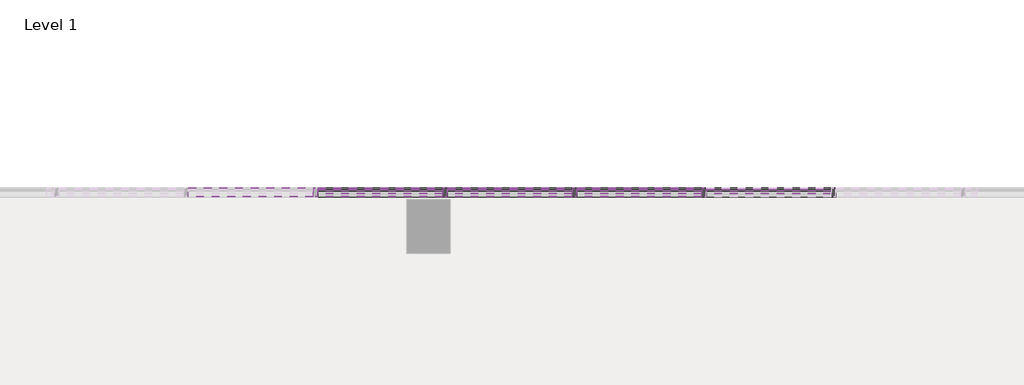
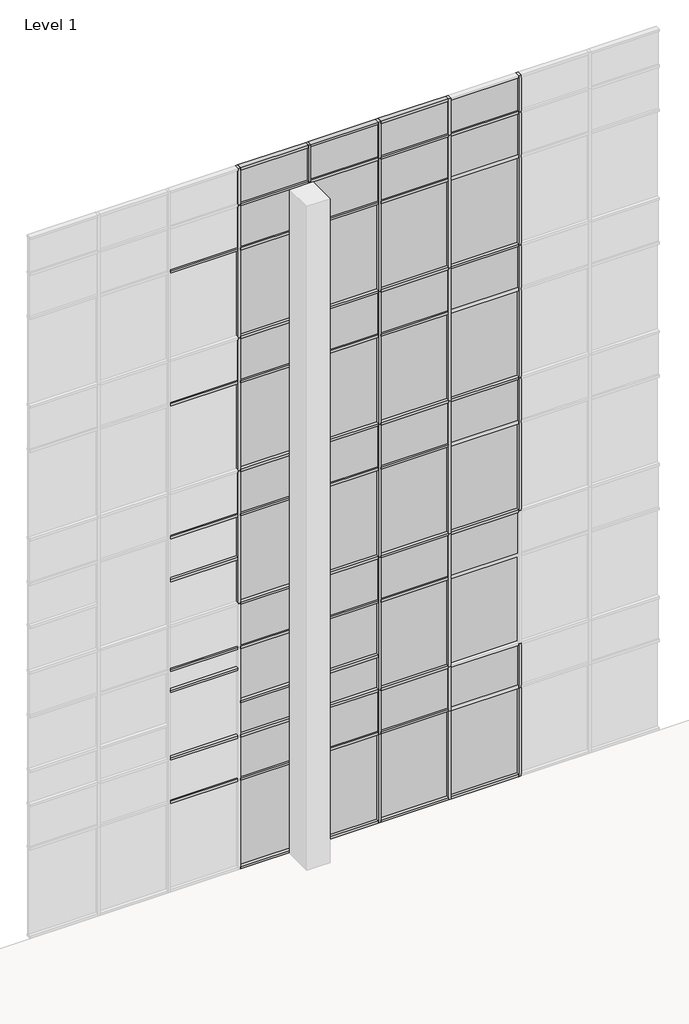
# One storey, part 12 of 23: 82 members, 46 plates.
"""IFC4 building model written with IfcOpenShell, lengths in millimetres."""

from ifc_helpers import new_model, si_unit, origin, place, context, project, spatial, transform, mapped, element, save
from components import member_2b49869a, member_f92b8aa2, member_810865a4, member_f0fea5a5, member_6d5c3e5e, member_9764dd38, system_panel_glazed_14c75400, system_panel_glazed_7d142148, system_panel_glazed_725bf07f, system_panel_solid_5dfe6f83, system_panel_solid_e25e2004, system_panel_solid_b7551183

model = new_model("IFC4")

# Units and contexts
model_context = context("Model", 3, world=origin())
ifc_project = project(units=[si_unit("LENGTHUNIT", "METRE", prefix="MILLI")], contexts=[model_context])

# Site, building, storey
site = spatial("IfcSite", under=ifc_project)
building = spatial("IfcBuilding", under=site)
storey = spatial("IfcBuildingStorey", under=building, Name="Level 1", Elevation=0.0)

# Members
placement = place(None, origin())
member_shape = member_2b49869a(model_context)
element("IfcMember", 1, ObjectType="Rectangular Mullion : 2.5\" x 5\" rectangular", at=placement, inside=storey, context=model_context, shape_type="MappedRepresentation", body=[
    mapped(member_shape, transform((-50775.4623649, 10017.7896508, 2438.4), x_axis=(1.0, 0.0, 0.0), y_axis=(0.0, -1.0, 0.0), z_axis=(0.0, 0.0, -1.0))),
])
element("IfcMember", 2, ObjectType="Rectangular Mullion : 2.5\" x 5\" rectangular", at=placement, inside=storey, context=model_context, shape_type="MappedRepresentation", body=[
    mapped(member_shape, transform((-52604.2623649, 10017.7896508, 2438.4), x_axis=(1.0, 0.0, 0.0), y_axis=(0.0, -1.0, 0.0), z_axis=(0.0, 0.0, -1.0))),
])
element("IfcMember", 3, ObjectType="Rectangular Mullion : 2.5\" x 5\" rectangular", at=placement, inside=storey, context=model_context, shape_type="MappedRepresentation", body=[
    mapped(member_shape, transform((-54433.0623649, 10017.7896508, 2438.4), x_axis=(1.0, 0.0, 0.0), y_axis=(0.0, -1.0, 0.0), z_axis=(0.0, 0.0, -1.0))),
])
element("IfcMember", 4, ObjectType="Rectangular Mullion : 2.5\" x 5\" rectangular", at=placement, inside=storey, context=model_context, shape_type="MappedRepresentation", body=[
    mapped(member_shape, transform((-56261.8623649, 10017.7896508, 2438.4), x_axis=(1.0, 0.0, 0.0), y_axis=(0.0, -1.0, 0.0), z_axis=(0.0, 0.0, -1.0))),
])
member_2_shape = member_f92b8aa2(model_context)
element("IfcMember", 5, ObjectType="Rectangular Mullion : 2.5\" x 5\" rectangular", at=placement, inside=storey, context=model_context, shape_type="MappedRepresentation", body=[
    mapped(member_2_shape, transform((-50775.4623649, 10017.7896508, 18288.0), x_axis=(1.0, 0.0, 0.0), y_axis=(0.0, -1.0, 0.0), z_axis=(0.0, 0.0, -1.0))),
])
element("IfcMember", 6, ObjectType="Rectangular Mullion : 2.5\" x 5\" rectangular", at=placement, inside=storey, context=model_context, shape_type="MappedRepresentation", body=[
    mapped(member_2_shape, transform((-52604.2623649, 10017.7896508, 18288.0), x_axis=(1.0, 0.0, 0.0), y_axis=(0.0, -1.0, 0.0), z_axis=(0.0, 0.0, -1.0))),
])
element("IfcMember", 7, ObjectType="Rectangular Mullion : 2.5\" x 5\" rectangular", at=placement, inside=storey, context=model_context, shape_type="MappedRepresentation", body=[
    mapped(member_2_shape, transform((-54433.0623649, 10017.7896508, 18288.0), x_axis=(1.0, 0.0, 0.0), y_axis=(0.0, -1.0, 0.0), z_axis=(0.0, 0.0, -1.0))),
])
element("IfcMember", 8, ObjectType="Rectangular Mullion : 2.5\" x 5\" rectangular", at=placement, inside=storey, context=model_context, shape_type="MappedRepresentation", body=[
    mapped(member_2_shape, transform((-56261.8623649, 10017.7896508, 18288.0), x_axis=(1.0, 0.0, 0.0), y_axis=(0.0, -1.0, 0.0), z_axis=(0.0, 0.0, -1.0))),
])
element("IfcMember", 9, ObjectType="Rectangular Mullion : 2.5\" x 5\" rectangular", at=placement, inside=storey, context=model_context, shape_type="MappedRepresentation", body=[
    mapped(member_2_shape, transform((-58090.6623649, 10017.7896508, 18288.0), x_axis=(1.0, 0.0, 0.0), y_axis=(0.0, -1.0, 0.0), z_axis=(0.0, 0.0, -1.0))),
])
member_3_shape = member_810865a4(model_context)
element("IfcMember", 10, ObjectType="Rectangular Mullion : 2.5\" x 5\" rectangular", at=placement, inside=storey, context=model_context, shape_type="MappedRepresentation", body=[
    mapped(member_3_shape, transform((-50775.4623649, 10017.7896508, 14630.4), x_axis=(1.0, 0.0, 0.0), y_axis=(0.0, -1.0, 0.0), z_axis=(0.0, 0.0, -1.0))),
])
element("IfcMember", 11, ObjectType="Rectangular Mullion : 2.5\" x 5\" rectangular", at=placement, inside=storey, context=model_context, shape_type="MappedRepresentation", body=[
    mapped(member_3_shape, transform((-50775.4623649, 10017.7896508, 10972.8), x_axis=(1.0, 0.0, 0.0), y_axis=(0.0, -1.0, 0.0), z_axis=(0.0, 0.0, -1.0))),
])
element("IfcMember", 12, ObjectType="Rectangular Mullion : 2.5\" x 5\" rectangular", at=placement, inside=storey, context=model_context, shape_type="MappedRepresentation", body=[
    mapped(member_3_shape, transform((-50775.4623649, 10017.7896508, 7315.2), x_axis=(1.0, 0.0, 0.0), y_axis=(0.0, -1.0, 0.0), z_axis=(0.0, 0.0, -1.0))),
])
element("IfcMember", 13, ObjectType="Rectangular Mullion : 2.5\" x 5\" rectangular", at=placement, inside=storey, context=model_context, shape_type="MappedRepresentation", body=[
    mapped(member_3_shape, transform((-52604.2623649, 10017.7896508, 14630.4), x_axis=(1.0, 0.0, 0.0), y_axis=(0.0, -1.0, 0.0), z_axis=(0.0, 0.0, -1.0))),
])
element("IfcMember", 14, ObjectType="Rectangular Mullion : 2.5\" x 5\" rectangular", at=placement, inside=storey, context=model_context, shape_type="MappedRepresentation", body=[
    mapped(member_3_shape, transform((-52604.2623649, 10017.7896508, 10972.8), x_axis=(1.0, 0.0, 0.0), y_axis=(0.0, -1.0, 0.0), z_axis=(0.0, 0.0, -1.0))),
])
element("IfcMember", 15, ObjectType="Rectangular Mullion : 2.5\" x 5\" rectangular", at=placement, inside=storey, context=model_context, shape_type="MappedRepresentation", body=[
    mapped(member_3_shape, transform((-52604.2623649, 10017.7896508, 7315.2), x_axis=(1.0, 0.0, 0.0), y_axis=(0.0, -1.0, 0.0), z_axis=(0.0, 0.0, -1.0))),
])
element("IfcMember", 16, ObjectType="Rectangular Mullion : 2.5\" x 5\" rectangular", at=placement, inside=storey, context=model_context, shape_type="MappedRepresentation", body=[
    mapped(member_3_shape, transform((-52604.2623649, 10017.7896508, 3657.6), x_axis=(1.0, 0.0, 0.0), y_axis=(0.0, -1.0, 0.0), z_axis=(0.0, 0.0, -1.0))),
])
element("IfcMember", 17, ObjectType="Rectangular Mullion : 2.5\" x 5\" rectangular", at=placement, inside=storey, context=model_context, shape_type="MappedRepresentation", body=[
    mapped(member_3_shape, transform((-54433.0623649, 10017.7896508, 14630.4), x_axis=(1.0, 0.0, 0.0), y_axis=(0.0, -1.0, 0.0), z_axis=(0.0, 0.0, -1.0))),
])
element("IfcMember", 18, ObjectType="Rectangular Mullion : 2.5\" x 5\" rectangular", at=placement, inside=storey, context=model_context, shape_type="MappedRepresentation", body=[
    mapped(member_3_shape, transform((-54433.0623649, 10017.7896508, 10972.8), x_axis=(1.0, 0.0, 0.0), y_axis=(0.0, -1.0, 0.0), z_axis=(0.0, 0.0, -1.0))),
])
element("IfcMember", 19, ObjectType="Rectangular Mullion : 2.5\" x 5\" rectangular", at=placement, inside=storey, context=model_context, shape_type="MappedRepresentation", body=[
    mapped(member_3_shape, transform((-54433.0623649, 10017.7896508, 7315.2), x_axis=(1.0, 0.0, 0.0), y_axis=(0.0, -1.0, 0.0), z_axis=(0.0, 0.0, -1.0))),
])
element("IfcMember", 20, ObjectType="Rectangular Mullion : 2.5\" x 5\" rectangular", at=placement, inside=storey, context=model_context, shape_type="MappedRepresentation", body=[
    mapped(member_3_shape, transform((-54433.0623649, 10017.7896508, 3657.6), x_axis=(1.0, 0.0, 0.0), y_axis=(0.0, -1.0, 0.0), z_axis=(0.0, 0.0, -1.0))),
])
element("IfcMember", 21, ObjectType="Rectangular Mullion : 2.5\" x 5\" rectangular", at=placement, inside=storey, context=model_context, shape_type="MappedRepresentation", body=[
    mapped(member_3_shape, transform((-56261.8623649, 10017.7896508, 14630.4), x_axis=(1.0, 0.0, 0.0), y_axis=(0.0, -1.0, 0.0), z_axis=(0.0, 0.0, -1.0))),
])
element("IfcMember", 22, ObjectType="Rectangular Mullion : 2.5\" x 5\" rectangular", at=placement, inside=storey, context=model_context, shape_type="MappedRepresentation", body=[
    mapped(member_3_shape, transform((-56261.8623649, 10017.7896508, 10972.8), x_axis=(1.0, 0.0, 0.0), y_axis=(0.0, -1.0, 0.0), z_axis=(0.0, 0.0, -1.0))),
])
element("IfcMember", 23, ObjectType="Rectangular Mullion : 2.5\" x 5\" rectangular", at=placement, inside=storey, context=model_context, shape_type="MappedRepresentation", body=[
    mapped(member_3_shape, transform((-56261.8623649, 10017.7896508, 7315.2), x_axis=(1.0, 0.0, 0.0), y_axis=(0.0, -1.0, 0.0), z_axis=(0.0, 0.0, -1.0))),
])
element("IfcMember", 24, ObjectType="Rectangular Mullion : 2.5\" x 5\" rectangular", at=placement, inside=storey, context=model_context, shape_type="MappedRepresentation", body=[
    mapped(member_3_shape, transform((-56261.8623649, 10017.7896508, 3657.6), x_axis=(1.0, 0.0, 0.0), y_axis=(0.0, -1.0, 0.0), z_axis=(0.0, 0.0, -1.0))),
])
element("IfcMember", 25, ObjectType="Rectangular Mullion : 2.5\" x 5\" rectangular", at=placement, inside=storey, context=model_context, shape_type="MappedRepresentation", body=[
    mapped(member_3_shape, transform((-58090.6623649, 10017.7896508, 14630.4), x_axis=(1.0, 0.0, 0.0), y_axis=(0.0, -1.0, 0.0), z_axis=(0.0, 0.0, -1.0))),
])
element("IfcMember", 26, ObjectType="Rectangular Mullion : 2.5\" x 5\" rectangular", at=placement, inside=storey, context=model_context, shape_type="MappedRepresentation", body=[
    mapped(member_3_shape, transform((-58090.6623649, 10017.7896508, 10972.8), x_axis=(1.0, 0.0, 0.0), y_axis=(0.0, -1.0, 0.0), z_axis=(0.0, 0.0, -1.0))),
])
element("IfcMember", 27, ObjectType="Rectangular Mullion : 2.5\" x 5\" rectangular", at=placement, inside=storey, context=model_context, shape_type="MappedRepresentation", body=[
    mapped(member_3_shape, transform((-58090.6623649, 10017.7896508, 7315.2), x_axis=(1.0, 0.0, 0.0), y_axis=(0.0, -1.0, 0.0), z_axis=(0.0, 0.0, -1.0))),
])
member_4_shape = member_f0fea5a5(model_context)
element("IfcMember", 28, ObjectType="Rectangular Mullion : 2.5\" x 5\" rectangular", at=placement, inside=storey, context=model_context, shape_type="MappedRepresentation", body=[
    mapped(member_4_shape, transform((-50775.4623649, 10017.7896508, 0.0), x_axis=(1.0, 0.0, 0.0), y_axis=(0.0, -1.0, 0.0), z_axis=(0.0, 0.0, -1.0))),
])
element("IfcMember", 29, ObjectType="Rectangular Mullion : 2.5\" x 5\" rectangular", at=placement, inside=storey, context=model_context, shape_type="MappedRepresentation", body=[
    mapped(member_4_shape, transform((-56261.8623649, 10017.7896508, 0.0), x_axis=(1.0, 0.0, 0.0), y_axis=(0.0, -1.0, 0.0), z_axis=(0.0, 0.0, -1.0))),
])
element("IfcMember", 30, ObjectType="Rectangular Mullion : 2.5\" x 5\" rectangular", at=placement, inside=storey, context=model_context, shape_type="MappedRepresentation", body=[
    mapped(member_4_shape, transform((-52604.2623649, 10017.7896508, 0.0), x_axis=(1.0, 0.0, 0.0), y_axis=(0.0, -1.0, 0.0), z_axis=(0.0, 0.0, -1.0))),
])
element("IfcMember", 31, ObjectType="Rectangular Mullion : 2.5\" x 5\" rectangular", at=placement, inside=storey, context=model_context, shape_type="MappedRepresentation", body=[
    mapped(member_4_shape, transform((-54433.0623649, 10017.7896508, 0.0), x_axis=(1.0, 0.0, 0.0), y_axis=(0.0, -1.0, 0.0), z_axis=(0.0, 0.0, -1.0))),
])
member_5_shape = member_6d5c3e5e(model_context)
element("IfcMember", 32, ObjectType="Rectangular Mullion : 2.5\" x 5\" rectangular", at=placement, inside=storey, context=model_context, shape_type="MappedRepresentation", body=[
    mapped(member_5_shape, transform((-56293.6123649, 10017.7896508, 19304.0), x_axis=(0.0, 0.0, 1.0), y_axis=(0.0, -1.0, 0.0), z_axis=(1.0, 0.0, 0.0))),
])
element("IfcMember", 33, ObjectType="Rectangular Mullion : 2.5\" x 5\" rectangular", at=placement, inside=storey, context=model_context, shape_type="MappedRepresentation", body=[
    mapped(member_5_shape, transform((-52636.0123649, 10017.7896508, 19304.0), x_axis=(0.0, 0.0, 1.0), y_axis=(0.0, -1.0, 0.0), z_axis=(1.0, 0.0, 0.0))),
])
element("IfcMember", 34, ObjectType="Rectangular Mullion : 2.5\" x 5\" rectangular", at=placement, inside=storey, context=model_context, shape_type="MappedRepresentation", body=[
    mapped(member_5_shape, transform((-54464.8123649, 10017.7896508, 19304.0), x_axis=(0.0, 0.0, 1.0), y_axis=(0.0, -1.0, 0.0), z_axis=(1.0, 0.0, 0.0))),
])
member_6_shape = member_9764dd38(model_context)
element("IfcMember", 35, ObjectType="Rectangular Mullion : 2.5\" x 5\" rectangular", at=placement, inside=storey, context=model_context, shape_type="MappedRepresentation", body=[
    mapped(member_6_shape, transform((-52636.0123649, 10017.7896508, 17068.8), x_axis=(0.0, 0.0, 1.0), y_axis=(0.0, -1.0, 0.0), z_axis=(1.0, 0.0, 0.0))),
])
element("IfcMember", 36, ObjectType="Rectangular Mullion : 2.5\" x 5\" rectangular", at=placement, inside=storey, context=model_context, shape_type="MappedRepresentation", body=[
    mapped(member_6_shape, transform((-54464.8123649, 10017.7896508, 17068.8), x_axis=(0.0, 0.0, 1.0), y_axis=(0.0, -1.0, 0.0), z_axis=(1.0, 0.0, 0.0))),
])
element("IfcMember", 37, ObjectType="Rectangular Mullion : 2.5\" x 5\" rectangular", at=placement, inside=storey, context=model_context, shape_type="MappedRepresentation", body=[
    mapped(member_6_shape, transform((-56293.6123649, 10017.7896508, 17068.8), x_axis=(0.0, 0.0, 1.0), y_axis=(0.0, -1.0, 0.0), z_axis=(1.0, 0.0, 0.0))),
])
element("IfcMember", 38, ObjectType="Rectangular Mullion : 2.5\" x 5\" rectangular", at=placement, inside=storey, context=model_context, shape_type="MappedRepresentation", body=[
    mapped(member_6_shape, transform((-58122.4123649, 10017.7896508, 17068.8), x_axis=(0.0, 0.0, 1.0), y_axis=(0.0, -1.0, 0.0), z_axis=(1.0, 0.0, 0.0))),
])
element("IfcMember", 39, ObjectType="Rectangular Mullion : 2.5\" x 5\" rectangular", at=placement, inside=storey, context=model_context, shape_type="MappedRepresentation", body=[
    mapped(member_6_shape, transform((-52636.0123649, 10017.7896508, 13411.2), x_axis=(0.0, 0.0, 1.0), y_axis=(0.0, -1.0, 0.0), z_axis=(1.0, 0.0, 0.0))),
])
element("IfcMember", 40, ObjectType="Rectangular Mullion : 2.5\" x 5\" rectangular", at=placement, inside=storey, context=model_context, shape_type="MappedRepresentation", body=[
    mapped(member_6_shape, transform((-54464.8123649, 10017.7896508, 13411.2), x_axis=(0.0, 0.0, 1.0), y_axis=(0.0, -1.0, 0.0), z_axis=(1.0, 0.0, 0.0))),
])
element("IfcMember", 41, ObjectType="Rectangular Mullion : 2.5\" x 5\" rectangular", at=placement, inside=storey, context=model_context, shape_type="MappedRepresentation", body=[
    mapped(member_6_shape, transform((-56293.6123649, 10017.7896508, 13411.2), x_axis=(0.0, 0.0, 1.0), y_axis=(0.0, -1.0, 0.0), z_axis=(1.0, 0.0, 0.0))),
])
element("IfcMember", 42, ObjectType="Rectangular Mullion : 2.5\" x 5\" rectangular", at=placement, inside=storey, context=model_context, shape_type="MappedRepresentation", body=[
    mapped(member_6_shape, transform((-58122.4123649, 10017.7896508, 13411.2), x_axis=(0.0, 0.0, 1.0), y_axis=(0.0, -1.0, 0.0), z_axis=(1.0, 0.0, 0.0))),
])
element("IfcMember", 43, ObjectType="Rectangular Mullion : 2.5\" x 5\" rectangular", at=placement, inside=storey, context=model_context, shape_type="MappedRepresentation", body=[
    mapped(member_6_shape, transform((-52636.0123649, 10017.7896508, 9753.6), x_axis=(0.0, 0.0, 1.0), y_axis=(0.0, -1.0, 0.0), z_axis=(1.0, 0.0, 0.0))),
])
element("IfcMember", 44, ObjectType="Rectangular Mullion : 2.5\" x 5\" rectangular", at=placement, inside=storey, context=model_context, shape_type="MappedRepresentation", body=[
    mapped(member_6_shape, transform((-54464.8123649, 10017.7896508, 9753.6), x_axis=(0.0, 0.0, 1.0), y_axis=(0.0, -1.0, 0.0), z_axis=(1.0, 0.0, 0.0))),
])
element("IfcMember", 45, ObjectType="Rectangular Mullion : 2.5\" x 5\" rectangular", at=placement, inside=storey, context=model_context, shape_type="MappedRepresentation", body=[
    mapped(member_6_shape, transform((-56293.6123649, 10017.7896508, 9753.6), x_axis=(0.0, 0.0, 1.0), y_axis=(0.0, -1.0, 0.0), z_axis=(1.0, 0.0, 0.0))),
])
element("IfcMember", 46, ObjectType="Rectangular Mullion : 2.5\" x 5\" rectangular", at=placement, inside=storey, context=model_context, shape_type="MappedRepresentation", body=[
    mapped(member_6_shape, transform((-58122.4123649, 10017.7896508, 9753.6), x_axis=(0.0, 0.0, 1.0), y_axis=(0.0, -1.0, 0.0), z_axis=(1.0, 0.0, 0.0))),
])
element("IfcMember", 47, ObjectType="Rectangular Mullion : 2.5\" x 5\" rectangular", at=placement, inside=storey, context=model_context, shape_type="MappedRepresentation", body=[
    mapped(member_6_shape, transform((-52636.0123649, 10017.7896508, 6096.0), x_axis=(0.0, 0.0, 1.0), y_axis=(0.0, -1.0, 0.0), z_axis=(1.0, 0.0, 0.0))),
])
element("IfcMember", 48, ObjectType="Rectangular Mullion : 2.5\" x 5\" rectangular", at=placement, inside=storey, context=model_context, shape_type="MappedRepresentation", body=[
    mapped(member_6_shape, transform((-54464.8123649, 10017.7896508, 6096.0), x_axis=(0.0, 0.0, 1.0), y_axis=(0.0, -1.0, 0.0), z_axis=(1.0, 0.0, 0.0))),
])
element("IfcMember", 49, ObjectType="Rectangular Mullion : 2.5\" x 5\" rectangular", at=placement, inside=storey, context=model_context, shape_type="MappedRepresentation", body=[
    mapped(member_6_shape, transform((-56293.6123649, 10017.7896508, 6096.0), x_axis=(0.0, 0.0, 1.0), y_axis=(0.0, -1.0, 0.0), z_axis=(1.0, 0.0, 0.0))),
])
element("IfcMember", 50, ObjectType="Rectangular Mullion : 2.5\" x 5\" rectangular", at=placement, inside=storey, context=model_context, shape_type="MappedRepresentation", body=[
    mapped(member_6_shape, transform((-58122.4123649, 10017.7896508, 6096.0), x_axis=(0.0, 0.0, 1.0), y_axis=(0.0, -1.0, 0.0), z_axis=(1.0, 0.0, 0.0))),
])
element("IfcMember", 51, ObjectType="Rectangular Mullion : 2.5\" x 5\" rectangular", at=placement, inside=storey, context=model_context, shape_type="MappedRepresentation", body=[
    mapped(member_6_shape, transform((-52636.0123649, 10017.7896508, 2470.15), x_axis=(0.0, 0.0, 1.0), y_axis=(0.0, -1.0, 0.0), z_axis=(1.0, 0.0, 0.0))),
])
element("IfcMember", 52, ObjectType="Rectangular Mullion : 2.5\" x 5\" rectangular", at=placement, inside=storey, context=model_context, shape_type="MappedRepresentation", body=[
    mapped(member_6_shape, transform((-54464.8123649, 10017.7896508, 2470.15), x_axis=(0.0, 0.0, 1.0), y_axis=(0.0, -1.0, 0.0), z_axis=(1.0, 0.0, 0.0))),
])
element("IfcMember", 53, ObjectType="Rectangular Mullion : 2.5\" x 5\" rectangular", at=placement, inside=storey, context=model_context, shape_type="MappedRepresentation", body=[
    mapped(member_6_shape, transform((-56293.6123649, 10017.7896508, 2470.15), x_axis=(0.0, 0.0, 1.0), y_axis=(0.0, -1.0, 0.0), z_axis=(1.0, 0.0, 0.0))),
])
element("IfcMember", 54, ObjectType="Rectangular Mullion : 2.5\" x 5\" rectangular", at=placement, inside=storey, context=model_context, shape_type="MappedRepresentation", body=[
    mapped(member_6_shape, transform((-58122.4123649, 10017.7896508, 2470.15), x_axis=(0.0, 0.0, 1.0), y_axis=(0.0, -1.0, 0.0), z_axis=(1.0, 0.0, 0.0))),
])
element("IfcMember", 55, ObjectType="Rectangular Mullion : 2.5\" x 5\" rectangular", at=placement, inside=storey, context=model_context, shape_type="MappedRepresentation", body=[
    mapped(member_6_shape, transform((-58122.4123649, 10017.7896508, 8566.15), x_axis=(0.0, 0.0, 1.0), y_axis=(0.0, -1.0, 0.0), z_axis=(1.0, 0.0, 0.0))),
])
element("IfcMember", 56, ObjectType="Rectangular Mullion : 2.5\" x 5\" rectangular", at=placement, inside=storey, context=model_context, shape_type="MappedRepresentation", body=[
    mapped(member_6_shape, transform((-58122.4123649, 10017.7896508, 5518.15), x_axis=(0.0, 0.0, 1.0), y_axis=(0.0, -1.0, 0.0), z_axis=(1.0, 0.0, 0.0))),
])
element("IfcMember", 57, ObjectType="Rectangular Mullion : 2.5\" x 5\" rectangular", at=placement, inside=storey, context=model_context, shape_type="MappedRepresentation", body=[
    mapped(member_6_shape, transform((-56293.6123649, 10017.7896508, 4603.75), x_axis=(0.0, 0.0, 1.0), y_axis=(0.0, -1.0, 0.0), z_axis=(1.0, 0.0, 0.0))),
])
element("IfcMember", 58, ObjectType="Rectangular Mullion : 2.5\" x 5\" rectangular", at=placement, inside=storey, context=model_context, shape_type="MappedRepresentation", body=[
    mapped(member_6_shape, transform((-54464.8123649, 10017.7896508, 4603.75), x_axis=(0.0, 0.0, 1.0), y_axis=(0.0, -1.0, 0.0), z_axis=(1.0, 0.0, 0.0))),
])
element("IfcMember", 59, ObjectType="Rectangular Mullion : 2.5\" x 5\" rectangular", at=placement, inside=storey, context=model_context, shape_type="MappedRepresentation", body=[
    mapped(member_5_shape, transform((-52572.5123649, 10017.7896508, 0.0), x_axis=(0.0, 0.0, -1.0), y_axis=(0.0, -1.0, 0.0), z_axis=(-1.0, 0.0, 0.0))),
])
element("IfcMember", 60, ObjectType="Rectangular Mullion : 2.5\" x 5\" rectangular", at=placement, inside=storey, context=model_context, shape_type="MappedRepresentation", body=[
    mapped(member_5_shape, transform((-54401.3123649, 10017.7896508, 0.0), x_axis=(0.0, 0.0, -1.0), y_axis=(0.0, -1.0, 0.0), z_axis=(-1.0, 0.0, 0.0))),
])
element("IfcMember", 61, ObjectType="Rectangular Mullion : 2.5\" x 5\" rectangular", at=placement, inside=storey, context=model_context, shape_type="MappedRepresentation", body=[
    mapped(member_5_shape, transform((-56230.1123649, 10017.7896508, 0.0), x_axis=(0.0, 0.0, -1.0), y_axis=(0.0, -1.0, 0.0), z_axis=(-1.0, 0.0, 0.0))),
])
element("IfcMember", 62, ObjectType="Rectangular Mullion : 2.5\" x 5\" rectangular", at=placement, inside=storey, context=model_context, shape_type="MappedRepresentation", body=[
    mapped(member_5_shape, transform((-58058.9123649, 10017.7896508, 0.0), x_axis=(0.0, 0.0, -1.0), y_axis=(0.0, -1.0, 0.0), z_axis=(-1.0, 0.0, 0.0))),
])
element("IfcMember", 63, ObjectType="Rectangular Mullion : 2.5\" x 5\" rectangular", at=placement, inside=storey, context=model_context, shape_type="MappedRepresentation", body=[
    mapped(member_6_shape, transform((-50807.2123649, 10017.7896508, 10972.8), x_axis=(0.0, 0.0, 1.0), y_axis=(0.0, -1.0, 0.0), z_axis=(1.0, 0.0, 0.0))),
])
element("IfcMember", 64, ObjectType="Rectangular Mullion : 2.5\" x 5\" rectangular", at=placement, inside=storey, context=model_context, shape_type="MappedRepresentation", body=[
    mapped(member_6_shape, transform((-52636.0123649, 10017.7896508, 10972.8), x_axis=(0.0, 0.0, 1.0), y_axis=(0.0, -1.0, 0.0), z_axis=(1.0, 0.0, 0.0))),
])
element("IfcMember", 65, ObjectType="Rectangular Mullion : 2.5\" x 5\" rectangular", at=placement, inside=storey, context=model_context, shape_type="MappedRepresentation", body=[
    mapped(member_6_shape, transform((-54464.8123649, 10017.7896508, 10972.8), x_axis=(0.0, 0.0, 1.0), y_axis=(0.0, -1.0, 0.0), z_axis=(1.0, 0.0, 0.0))),
])
element("IfcMember", 66, ObjectType="Rectangular Mullion : 2.5\" x 5\" rectangular", at=placement, inside=storey, context=model_context, shape_type="MappedRepresentation", body=[
    mapped(member_6_shape, transform((-56293.6123649, 10017.7896508, 10972.8), x_axis=(0.0, 0.0, 1.0), y_axis=(0.0, -1.0, 0.0), z_axis=(1.0, 0.0, 0.0))),
])
element("IfcMember", 67, ObjectType="Rectangular Mullion : 2.5\" x 5\" rectangular", at=placement, inside=storey, context=model_context, shape_type="MappedRepresentation", body=[
    mapped(member_6_shape, transform((-50807.2123649, 10017.7896508, 7315.2), x_axis=(0.0, 0.0, 1.0), y_axis=(0.0, -1.0, 0.0), z_axis=(1.0, 0.0, 0.0))),
])
element("IfcMember", 68, ObjectType="Rectangular Mullion : 2.5\" x 5\" rectangular", at=placement, inside=storey, context=model_context, shape_type="MappedRepresentation", body=[
    mapped(member_6_shape, transform((-52636.0123649, 10017.7896508, 7315.2), x_axis=(0.0, 0.0, 1.0), y_axis=(0.0, -1.0, 0.0), z_axis=(1.0, 0.0, 0.0))),
])
element("IfcMember", 69, ObjectType="Rectangular Mullion : 2.5\" x 5\" rectangular", at=placement, inside=storey, context=model_context, shape_type="MappedRepresentation", body=[
    mapped(member_6_shape, transform((-54464.8123649, 10017.7896508, 7315.2), x_axis=(0.0, 0.0, 1.0), y_axis=(0.0, -1.0, 0.0), z_axis=(1.0, 0.0, 0.0))),
])
element("IfcMember", 70, ObjectType="Rectangular Mullion : 2.5\" x 5\" rectangular", at=placement, inside=storey, context=model_context, shape_type="MappedRepresentation", body=[
    mapped(member_6_shape, transform((-56293.6123649, 10017.7896508, 7315.2), x_axis=(0.0, 0.0, 1.0), y_axis=(0.0, -1.0, 0.0), z_axis=(1.0, 0.0, 0.0))),
])
element("IfcMember", 71, ObjectType="Rectangular Mullion : 2.5\" x 5\" rectangular", at=placement, inside=storey, context=model_context, shape_type="MappedRepresentation", body=[
    mapped(member_6_shape, transform((-50807.2123649, 10017.7896508, 18288.0), x_axis=(0.0, 0.0, 1.0), y_axis=(0.0, -1.0, 0.0), z_axis=(1.0, 0.0, 0.0))),
])
element("IfcMember", 72, ObjectType="Rectangular Mullion : 2.5\" x 5\" rectangular", at=placement, inside=storey, context=model_context, shape_type="MappedRepresentation", body=[
    mapped(member_6_shape, transform((-52636.0123649, 10017.7896508, 18288.0), x_axis=(0.0, 0.0, 1.0), y_axis=(0.0, -1.0, 0.0), z_axis=(1.0, 0.0, 0.0))),
])
element("IfcMember", 73, ObjectType="Rectangular Mullion : 2.5\" x 5\" rectangular", at=placement, inside=storey, context=model_context, shape_type="MappedRepresentation", body=[
    mapped(member_6_shape, transform((-54464.8123649, 10017.7896508, 18288.0), x_axis=(0.0, 0.0, 1.0), y_axis=(0.0, -1.0, 0.0), z_axis=(1.0, 0.0, 0.0))),
])
element("IfcMember", 74, ObjectType="Rectangular Mullion : 2.5\" x 5\" rectangular", at=placement, inside=storey, context=model_context, shape_type="MappedRepresentation", body=[
    mapped(member_6_shape, transform((-56293.6123649, 10017.7896508, 18288.0), x_axis=(0.0, 0.0, 1.0), y_axis=(0.0, -1.0, 0.0), z_axis=(1.0, 0.0, 0.0))),
])
element("IfcMember", 75, ObjectType="Rectangular Mullion : 2.5\" x 5\" rectangular", at=placement, inside=storey, context=model_context, shape_type="MappedRepresentation", body=[
    mapped(member_6_shape, transform((-50807.2123649, 10017.7896508, 14630.4), x_axis=(0.0, 0.0, 1.0), y_axis=(0.0, -1.0, 0.0), z_axis=(1.0, 0.0, 0.0))),
])
element("IfcMember", 76, ObjectType="Rectangular Mullion : 2.5\" x 5\" rectangular", at=placement, inside=storey, context=model_context, shape_type="MappedRepresentation", body=[
    mapped(member_6_shape, transform((-52636.0123649, 10017.7896508, 14630.4), x_axis=(0.0, 0.0, 1.0), y_axis=(0.0, -1.0, 0.0), z_axis=(1.0, 0.0, 0.0))),
])
element("IfcMember", 77, ObjectType="Rectangular Mullion : 2.5\" x 5\" rectangular", at=placement, inside=storey, context=model_context, shape_type="MappedRepresentation", body=[
    mapped(member_6_shape, transform((-54464.8123649, 10017.7896508, 14630.4), x_axis=(0.0, 0.0, 1.0), y_axis=(0.0, -1.0, 0.0), z_axis=(1.0, 0.0, 0.0))),
])
element("IfcMember", 78, ObjectType="Rectangular Mullion : 2.5\" x 5\" rectangular", at=placement, inside=storey, context=model_context, shape_type="MappedRepresentation", body=[
    mapped(member_6_shape, transform((-56293.6123649, 10017.7896508, 14630.4), x_axis=(0.0, 0.0, 1.0), y_axis=(0.0, -1.0, 0.0), z_axis=(1.0, 0.0, 0.0))),
])
element("IfcMember", 79, ObjectType="Rectangular Mullion : 2.5\" x 5\" rectangular", at=placement, inside=storey, context=model_context, shape_type="MappedRepresentation", body=[
    mapped(member_6_shape, transform((-56293.6123649, 10017.7896508, 3657.6), x_axis=(0.0, 0.0, 1.0), y_axis=(0.0, -1.0, 0.0), z_axis=(1.0, 0.0, 0.0))),
])
element("IfcMember", 80, ObjectType="Rectangular Mullion : 2.5\" x 5\" rectangular", at=placement, inside=storey, context=model_context, shape_type="MappedRepresentation", body=[
    mapped(member_6_shape, transform((-52636.0123649, 10017.7896508, 3657.6), x_axis=(0.0, 0.0, 1.0), y_axis=(0.0, -1.0, 0.0), z_axis=(1.0, 0.0, 0.0))),
])
element("IfcMember", 81, ObjectType="Rectangular Mullion : 2.5\" x 5\" rectangular", at=placement, inside=storey, context=model_context, shape_type="MappedRepresentation", body=[
    mapped(member_6_shape, transform((-58122.4123649, 10017.7896508, 3657.6), x_axis=(0.0, 0.0, 1.0), y_axis=(0.0, -1.0, 0.0), z_axis=(1.0, 0.0, 0.0))),
])
element("IfcMember", 82, ObjectType="Rectangular Mullion : 2.5\" x 5\" rectangular", at=placement, inside=storey, context=model_context, shape_type="MappedRepresentation", body=[
    mapped(member_6_shape, transform((-54464.8123649, 10017.7896508, 3657.6), x_axis=(0.0, 0.0, 1.0), y_axis=(0.0, -1.0, 0.0), z_axis=(1.0, 0.0, 0.0))),
])

# Plates
system_panel_glazed_shape = system_panel_glazed_14c75400(model_context)
element("IfcPlate", 83, ObjectType="System Panel : Glazed", at=placement, inside=storey, context=model_context, shape_type="MappedRepresentation", body=[
    mapped(system_panel_glazed_shape, transform((-51689.8623649, 10017.7896508, 14662.15), x_axis=(1.0, 0.0, 0.0), y_axis=(0.0, 1.0, 0.0), z_axis=(0.0, 0.0, 1.0))),
])
element("IfcPlate", 84, ObjectType="System Panel : Glazed", at=placement, inside=storey, context=model_context, shape_type="MappedRepresentation", body=[
    mapped(system_panel_glazed_shape, transform((-53518.6623649, 10017.7896508, 14662.15), x_axis=(1.0, 0.0, 0.0), y_axis=(0.0, 1.0, 0.0), z_axis=(0.0, 0.0, 1.0))),
])
element("IfcPlate", 85, ObjectType="System Panel : Glazed", at=placement, inside=storey, context=model_context, shape_type="MappedRepresentation", body=[
    mapped(system_panel_glazed_shape, transform((-55347.4623649, 10017.7896508, 14662.15), x_axis=(1.0, 0.0, 0.0), y_axis=(0.0, 1.0, 0.0), z_axis=(0.0, 0.0, 1.0))),
])
element("IfcPlate", 86, ObjectType="System Panel : Glazed", at=placement, inside=storey, context=model_context, shape_type="MappedRepresentation", body=[
    mapped(system_panel_glazed_shape, transform((-57176.2623649, 10017.7896508, 14662.15), x_axis=(1.0, 0.0, 0.0), y_axis=(0.0, 1.0, 0.0), z_axis=(0.0, 0.0, 1.0))),
])
element("IfcPlate", 87, ObjectType="System Panel : Glazed", at=placement, inside=storey, context=model_context, shape_type="MappedRepresentation", body=[
    mapped(system_panel_glazed_shape, transform((-51689.8623649, 10017.7896508, 11004.55), x_axis=(1.0, 0.0, 0.0), y_axis=(0.0, 1.0, 0.0), z_axis=(0.0, 0.0, 1.0))),
])
element("IfcPlate", 88, ObjectType="System Panel : Glazed", at=placement, inside=storey, context=model_context, shape_type="MappedRepresentation", body=[
    mapped(system_panel_glazed_shape, transform((-53518.6623649, 10017.7896508, 11004.55), x_axis=(1.0, 0.0, 0.0), y_axis=(0.0, 1.0, 0.0), z_axis=(0.0, 0.0, 1.0))),
])
element("IfcPlate", 89, ObjectType="System Panel : Glazed", at=placement, inside=storey, context=model_context, shape_type="MappedRepresentation", body=[
    mapped(system_panel_glazed_shape, transform((-55347.4623649, 10017.7896508, 11004.55), x_axis=(1.0, 0.0, 0.0), y_axis=(0.0, 1.0, 0.0), z_axis=(0.0, 0.0, 1.0))),
])
element("IfcPlate", 90, ObjectType="System Panel : Glazed", at=placement, inside=storey, context=model_context, shape_type="MappedRepresentation", body=[
    mapped(system_panel_glazed_shape, transform((-57176.2623649, 10017.7896508, 11004.55), x_axis=(1.0, 0.0, 0.0), y_axis=(0.0, 1.0, 0.0), z_axis=(0.0, 0.0, 1.0))),
])
element("IfcPlate", 91, ObjectType="System Panel : Glazed", at=placement, inside=storey, context=model_context, shape_type="MappedRepresentation", body=[
    mapped(system_panel_glazed_shape, transform((-51689.8623649, 10017.7896508, 7346.95), x_axis=(1.0, 0.0, 0.0), y_axis=(0.0, 1.0, 0.0), z_axis=(0.0, 0.0, 1.0))),
])
element("IfcPlate", 92, ObjectType="System Panel : Glazed", at=placement, inside=storey, context=model_context, shape_type="MappedRepresentation", body=[
    mapped(system_panel_glazed_shape, transform((-53518.6623649, 10017.7896508, 7346.95), x_axis=(1.0, 0.0, 0.0), y_axis=(0.0, 1.0, 0.0), z_axis=(0.0, 0.0, 1.0))),
])
element("IfcPlate", 93, ObjectType="System Panel : Glazed", at=placement, inside=storey, context=model_context, shape_type="MappedRepresentation", body=[
    mapped(system_panel_glazed_shape, transform((-55347.4623649, 10017.7896508, 7346.95), x_axis=(1.0, 0.0, 0.0), y_axis=(0.0, 1.0, 0.0), z_axis=(0.0, 0.0, 1.0))),
])
element("IfcPlate", 94, ObjectType="System Panel : Glazed", at=placement, inside=storey, context=model_context, shape_type="MappedRepresentation", body=[
    mapped(system_panel_glazed_shape, transform((-57176.2623649, 10017.7896508, 7346.95), x_axis=(1.0, 0.0, 0.0), y_axis=(0.0, 1.0, 0.0), z_axis=(0.0, 0.0, 1.0))),
])
element("IfcPlate", 95, ObjectType="System Panel : Glazed", at=placement, inside=storey, context=model_context, shape_type="MappedRepresentation", body=[
    mapped(system_panel_glazed_shape, transform((-51689.8623649, 10017.7896508, 3689.35), x_axis=(1.0, 0.0, 0.0), y_axis=(0.0, 1.0, 0.0), z_axis=(0.0, 0.0, 1.0))),
])
element("IfcPlate", 96, ObjectType="System Panel : Glazed", at=placement, inside=storey, context=model_context, shape_type="MappedRepresentation", body=[
    mapped(system_panel_glazed_shape, transform((-53518.6623649, 10017.7896508, 3689.35), x_axis=(1.0, 0.0, 0.0), y_axis=(0.0, 1.0, 0.0), z_axis=(0.0, 0.0, 1.0))),
])
element("IfcPlate", 97, ObjectType="System Panel : Glazed", at=placement, inside=storey, context=model_context, shape_type="MappedRepresentation", body=[
    mapped(system_panel_glazed_shape, transform((-51689.8623649, 10017.7896508, 63.5), x_axis=(1.0, 0.0, 0.0), y_axis=(0.0, 1.0, 0.0), z_axis=(0.0, 0.0, 1.0))),
])
element("IfcPlate", 98, ObjectType="System Panel : Glazed", at=placement, inside=storey, context=model_context, shape_type="MappedRepresentation", body=[
    mapped(system_panel_glazed_shape, transform((-53518.6623649, 10017.7896508, 63.5), x_axis=(1.0, 0.0, 0.0), y_axis=(0.0, 1.0, 0.0), z_axis=(0.0, 0.0, 1.0))),
])
element("IfcPlate", 99, ObjectType="System Panel : Glazed", at=placement, inside=storey, context=model_context, shape_type="MappedRepresentation", body=[
    mapped(system_panel_glazed_shape, transform((-55347.4623649, 10017.7896508, 63.5), x_axis=(1.0, 0.0, 0.0), y_axis=(0.0, 1.0, 0.0), z_axis=(0.0, 0.0, 1.0))),
])
element("IfcPlate", 100, ObjectType="System Panel : Glazed", at=placement, inside=storey, context=model_context, shape_type="MappedRepresentation", body=[
    mapped(system_panel_glazed_shape, transform((-57176.2623649, 10017.7896508, 63.5), x_axis=(1.0, 0.0, 0.0), y_axis=(0.0, 1.0, 0.0), z_axis=(0.0, 0.0, 1.0))),
])
system_panel_glazed_2_shape = system_panel_glazed_7d142148(model_context)
element("IfcPlate", 101, ObjectType="System Panel : Glazed", at=placement, inside=storey, context=model_context, shape_type="MappedRepresentation", body=[
    mapped(system_panel_glazed_2_shape, transform((-55347.4623649, 10017.7896508, 3689.35), x_axis=(1.0, 0.0, 0.0), y_axis=(0.0, 1.0, 0.0), z_axis=(0.0, 0.0, 1.0))),
])
element("IfcPlate", 102, ObjectType="System Panel : Glazed", at=placement, inside=storey, context=model_context, shape_type="MappedRepresentation", body=[
    mapped(system_panel_glazed_2_shape, transform((-57176.2623649, 10017.7896508, 3689.35), x_axis=(1.0, 0.0, 0.0), y_axis=(0.0, 1.0, 0.0), z_axis=(0.0, 0.0, 1.0))),
])
system_panel_glazed_3_shape = system_panel_glazed_725bf07f(model_context)
element("IfcPlate", 103, ObjectType="System Panel : Glazed", at=placement, inside=storey, context=model_context, shape_type="MappedRepresentation", body=[
    mapped(system_panel_glazed_3_shape, transform((-57176.2623649, 10017.7896508, 4635.5), x_axis=(1.0, 0.0, 0.0), y_axis=(0.0, 1.0, 0.0), z_axis=(0.0, 0.0, 1.0))),
])
element("IfcPlate", 104, ObjectType="System Panel : Glazed", at=placement, inside=storey, context=model_context, shape_type="MappedRepresentation", body=[
    mapped(system_panel_glazed_3_shape, transform((-55347.4623649, 10017.7896508, 4635.5), x_axis=(1.0, 0.0, 0.0), y_axis=(0.0, 1.0, 0.0), z_axis=(0.0, 0.0, 1.0))),
])
system_panel_solid_shape = system_panel_solid_5dfe6f83(model_context)
element("IfcPlate", 105, ObjectType="System Panel : Solid", at=placement, inside=storey, context=model_context, shape_type="MappedRepresentation", body=[
    mapped(system_panel_solid_shape, transform((-57176.2623649, 10017.7896508, 18319.75), x_axis=(1.0, 0.0, 0.0), y_axis=(0.0, 1.0, 0.0), z_axis=(0.0, 0.0, 1.0))),
])
element("IfcPlate", 106, ObjectType="System Panel : Solid", at=placement, inside=storey, context=model_context, shape_type="MappedRepresentation", body=[
    mapped(system_panel_solid_shape, transform((-55347.4623649, 10017.7896508, 18319.75), x_axis=(1.0, 0.0, 0.0), y_axis=(0.0, 1.0, 0.0), z_axis=(0.0, 0.0, 1.0))),
])
element("IfcPlate", 107, ObjectType="System Panel : Solid", at=placement, inside=storey, context=model_context, shape_type="MappedRepresentation", body=[
    mapped(system_panel_solid_shape, transform((-53518.6623649, 10017.7896508, 18319.75), x_axis=(1.0, 0.0, 0.0), y_axis=(0.0, 1.0, 0.0), z_axis=(0.0, 0.0, 1.0))),
])
element("IfcPlate", 108, ObjectType="System Panel : Solid", at=placement, inside=storey, context=model_context, shape_type="MappedRepresentation", body=[
    mapped(system_panel_solid_shape, transform((-51689.8623649, 10017.7896508, 18319.75), x_axis=(1.0, 0.0, 0.0), y_axis=(0.0, 1.0, 0.0), z_axis=(0.0, 0.0, 1.0))),
])
system_panel_solid_2_shape = system_panel_solid_e25e2004(model_context)
element("IfcPlate", 109, ObjectType="System Panel : Solid", at=placement, inside=storey, context=model_context, shape_type="MappedRepresentation", body=[
    mapped(system_panel_solid_2_shape, transform((-51689.8623649, 10017.7896508, 17100.55), x_axis=(1.0, 0.0, 0.0), y_axis=(0.0, 1.0, 0.0), z_axis=(0.0, 0.0, 1.0))),
])
element("IfcPlate", 110, ObjectType="System Panel : Solid", at=placement, inside=storey, context=model_context, shape_type="MappedRepresentation", body=[
    mapped(system_panel_solid_2_shape, transform((-53518.6623649, 10017.7896508, 17100.55), x_axis=(1.0, 0.0, 0.0), y_axis=(0.0, 1.0, 0.0), z_axis=(0.0, 0.0, 1.0))),
])
element("IfcPlate", 111, ObjectType="System Panel : Solid", at=placement, inside=storey, context=model_context, shape_type="MappedRepresentation", body=[
    mapped(system_panel_solid_2_shape, transform((-55347.4623649, 10017.7896508, 17100.55), x_axis=(1.0, 0.0, 0.0), y_axis=(0.0, 1.0, 0.0), z_axis=(0.0, 0.0, 1.0))),
])
element("IfcPlate", 112, ObjectType="System Panel : Solid", at=placement, inside=storey, context=model_context, shape_type="MappedRepresentation", body=[
    mapped(system_panel_solid_2_shape, transform((-57176.2623649, 10017.7896508, 17100.55), x_axis=(1.0, 0.0, 0.0), y_axis=(0.0, 1.0, 0.0), z_axis=(0.0, 0.0, 1.0))),
])
element("IfcPlate", 113, ObjectType="System Panel : Solid", at=placement, inside=storey, context=model_context, shape_type="MappedRepresentation", body=[
    mapped(system_panel_solid_2_shape, transform((-51689.8623649, 10017.7896508, 13442.95), x_axis=(1.0, 0.0, 0.0), y_axis=(0.0, 1.0, 0.0), z_axis=(0.0, 0.0, 1.0))),
])
element("IfcPlate", 114, ObjectType="System Panel : Solid", at=placement, inside=storey, context=model_context, shape_type="MappedRepresentation", body=[
    mapped(system_panel_solid_2_shape, transform((-53518.6623649, 10017.7896508, 13442.95), x_axis=(1.0, 0.0, 0.0), y_axis=(0.0, 1.0, 0.0), z_axis=(0.0, 0.0, 1.0))),
])
element("IfcPlate", 115, ObjectType="System Panel : Solid", at=placement, inside=storey, context=model_context, shape_type="MappedRepresentation", body=[
    mapped(system_panel_solid_2_shape, transform((-55347.4623649, 10017.7896508, 13442.95), x_axis=(1.0, 0.0, 0.0), y_axis=(0.0, 1.0, 0.0), z_axis=(0.0, 0.0, 1.0))),
])
element("IfcPlate", 116, ObjectType="System Panel : Solid", at=placement, inside=storey, context=model_context, shape_type="MappedRepresentation", body=[
    mapped(system_panel_solid_2_shape, transform((-57176.2623649, 10017.7896508, 13442.95), x_axis=(1.0, 0.0, 0.0), y_axis=(0.0, 1.0, 0.0), z_axis=(0.0, 0.0, 1.0))),
])
element("IfcPlate", 117, ObjectType="System Panel : Solid", at=placement, inside=storey, context=model_context, shape_type="MappedRepresentation", body=[
    mapped(system_panel_solid_2_shape, transform((-51689.8623649, 10017.7896508, 9785.35), x_axis=(1.0, 0.0, 0.0), y_axis=(0.0, 1.0, 0.0), z_axis=(0.0, 0.0, 1.0))),
])
element("IfcPlate", 118, ObjectType="System Panel : Solid", at=placement, inside=storey, context=model_context, shape_type="MappedRepresentation", body=[
    mapped(system_panel_solid_2_shape, transform((-53518.6623649, 10017.7896508, 9785.35), x_axis=(1.0, 0.0, 0.0), y_axis=(0.0, 1.0, 0.0), z_axis=(0.0, 0.0, 1.0))),
])
element("IfcPlate", 119, ObjectType="System Panel : Solid", at=placement, inside=storey, context=model_context, shape_type="MappedRepresentation", body=[
    mapped(system_panel_solid_2_shape, transform((-55347.4623649, 10017.7896508, 9785.35), x_axis=(1.0, 0.0, 0.0), y_axis=(0.0, 1.0, 0.0), z_axis=(0.0, 0.0, 1.0))),
])
element("IfcPlate", 120, ObjectType="System Panel : Solid", at=placement, inside=storey, context=model_context, shape_type="MappedRepresentation", body=[
    mapped(system_panel_solid_2_shape, transform((-57176.2623649, 10017.7896508, 9785.35), x_axis=(1.0, 0.0, 0.0), y_axis=(0.0, 1.0, 0.0), z_axis=(0.0, 0.0, 1.0))),
])
element("IfcPlate", 121, ObjectType="System Panel : Solid", at=placement, inside=storey, context=model_context, shape_type="MappedRepresentation", body=[
    mapped(system_panel_solid_2_shape, transform((-51689.8623649, 10017.7896508, 6127.75), x_axis=(1.0, 0.0, 0.0), y_axis=(0.0, 1.0, 0.0), z_axis=(0.0, 0.0, 1.0))),
])
element("IfcPlate", 122, ObjectType="System Panel : Solid", at=placement, inside=storey, context=model_context, shape_type="MappedRepresentation", body=[
    mapped(system_panel_solid_2_shape, transform((-53518.6623649, 10017.7896508, 6127.75), x_axis=(1.0, 0.0, 0.0), y_axis=(0.0, 1.0, 0.0), z_axis=(0.0, 0.0, 1.0))),
])
element("IfcPlate", 123, ObjectType="System Panel : Solid", at=placement, inside=storey, context=model_context, shape_type="MappedRepresentation", body=[
    mapped(system_panel_solid_2_shape, transform((-55347.4623649, 10017.7896508, 6127.75), x_axis=(1.0, 0.0, 0.0), y_axis=(0.0, 1.0, 0.0), z_axis=(0.0, 0.0, 1.0))),
])
element("IfcPlate", 124, ObjectType="System Panel : Solid", at=placement, inside=storey, context=model_context, shape_type="MappedRepresentation", body=[
    mapped(system_panel_solid_2_shape, transform((-57176.2623649, 10017.7896508, 6127.75), x_axis=(1.0, 0.0, 0.0), y_axis=(0.0, 1.0, 0.0), z_axis=(0.0, 0.0, 1.0))),
])
system_panel_solid_3_shape = system_panel_solid_b7551183(model_context)
element("IfcPlate", 125, ObjectType="System Panel : Solid", at=placement, inside=storey, context=model_context, shape_type="MappedRepresentation", body=[
    mapped(system_panel_solid_3_shape, transform((-51689.8623649, 10017.7896508, 2501.9), x_axis=(1.0, 0.0, 0.0), y_axis=(0.0, 1.0, 0.0), z_axis=(0.0, 0.0, 1.0))),
])
element("IfcPlate", 126, ObjectType="System Panel : Solid", at=placement, inside=storey, context=model_context, shape_type="MappedRepresentation", body=[
    mapped(system_panel_solid_3_shape, transform((-53518.6623649, 10017.7896508, 2501.9), x_axis=(1.0, 0.0, 0.0), y_axis=(0.0, 1.0, 0.0), z_axis=(0.0, 0.0, 1.0))),
])
element("IfcPlate", 127, ObjectType="System Panel : Solid", at=placement, inside=storey, context=model_context, shape_type="MappedRepresentation", body=[
    mapped(system_panel_solid_3_shape, transform((-55347.4623649, 10017.7896508, 2501.9), x_axis=(1.0, 0.0, 0.0), y_axis=(0.0, 1.0, 0.0), z_axis=(0.0, 0.0, 1.0))),
])
element("IfcPlate", 128, ObjectType="System Panel : Solid", at=placement, inside=storey, context=model_context, shape_type="MappedRepresentation", body=[
    mapped(system_panel_solid_3_shape, transform((-57176.2623649, 10017.7896508, 2501.9), x_axis=(1.0, 0.0, 0.0), y_axis=(0.0, 1.0, 0.0), z_axis=(0.0, 0.0, 1.0))),
])

save(model, "model.ifc")
